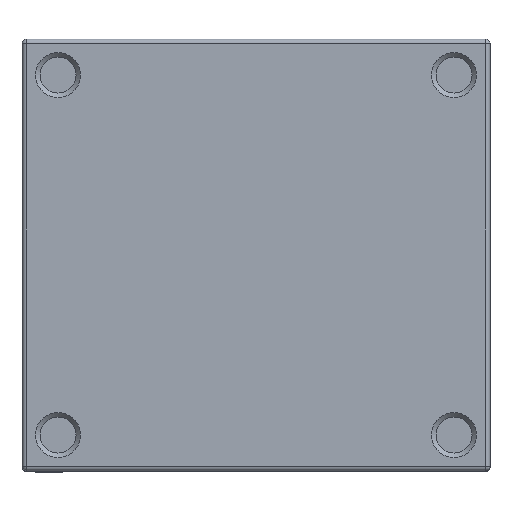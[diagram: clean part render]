
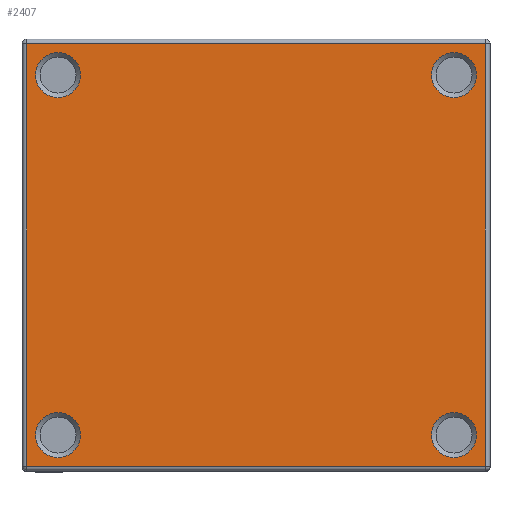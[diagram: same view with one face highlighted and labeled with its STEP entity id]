
A CAD part, top view. The second image highlights one B-rep face of the part: STEP entity #2407.
In plain terms, the highlighted planar face has unit normal (0, 0, 1).
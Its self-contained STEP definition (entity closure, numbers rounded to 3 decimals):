
#64=FACE_BOUND('',#507,.T.);
#65=FACE_BOUND('',#508,.T.);
#66=FACE_BOUND('',#509,.T.);
#67=FACE_BOUND('',#510,.T.);
#134=CIRCLE('',#2649,25.);
#135=CIRCLE('',#2650,25.);
#136=CIRCLE('',#2651,25.);
#137=CIRCLE('',#2652,25.);
#334=FACE_OUTER_BOUND('',#506,.T.);
#506=EDGE_LOOP('',(#1730,#1731,#1732,#1733));
#507=EDGE_LOOP('',(#1734));
#508=EDGE_LOOP('',(#1735));
#509=EDGE_LOOP('',(#1736));
#510=EDGE_LOOP('',(#1737));
#677=LINE('',#3836,#849);
#681=LINE('',#3849,#853);
#683=LINE('',#3852,#855);
#685=LINE('',#3855,#857);
#849=VECTOR('',#3059,10.);
#853=VECTOR('',#3075,10.);
#855=VECTOR('',#3079,10.);
#857=VECTOR('',#3083,10.);
#1015=VERTEX_POINT('',#3791);
#1019=VERTEX_POINT('',#3805);
#1025=VERTEX_POINT('',#3827);
#1028=VERTEX_POINT('',#3840);
#1062=VERTEX_POINT('',#3928);
#1063=VERTEX_POINT('',#3930);
#1064=VERTEX_POINT('',#3932);
#1065=VERTEX_POINT('',#3934);
#1256=EDGE_CURVE('',#1015,#1025,#677,.T.);
#1263=EDGE_CURVE('',#1025,#1028,#681,.T.);
#1265=EDGE_CURVE('',#1028,#1019,#683,.T.);
#1267=EDGE_CURVE('',#1019,#1015,#685,.T.);
#1302=EDGE_CURVE('',#1062,#1062,#134,.T.);
#1303=EDGE_CURVE('',#1063,#1063,#135,.T.);
#1304=EDGE_CURVE('',#1064,#1064,#136,.T.);
#1305=EDGE_CURVE('',#1065,#1065,#137,.T.);
#1730=ORIENTED_EDGE('',*,*,#1256,.F.);
#1731=ORIENTED_EDGE('',*,*,#1267,.F.);
#1732=ORIENTED_EDGE('',*,*,#1265,.F.);
#1733=ORIENTED_EDGE('',*,*,#1263,.F.);
#1734=ORIENTED_EDGE('',*,*,#1302,.T.);
#1735=ORIENTED_EDGE('',*,*,#1303,.T.);
#1736=ORIENTED_EDGE('',*,*,#1304,.T.);
#1737=ORIENTED_EDGE('',*,*,#1305,.T.);
#2160=PLANE('',#2648);
#2407=ADVANCED_FACE('',(#334,#64,#65,#66,#67),#2160,.T.);
#2648=AXIS2_PLACEMENT_3D('',#3927,#3148,#3149);
#2649=AXIS2_PLACEMENT_3D('',#3929,#3150,#3151);
#2650=AXIS2_PLACEMENT_3D('',#3931,#3152,#3153);
#2651=AXIS2_PLACEMENT_3D('',#3933,#3154,#3155);
#2652=AXIS2_PLACEMENT_3D('',#3935,#3156,#3157);
#3059=DIRECTION('',(0.,1.,0.));
#3075=DIRECTION('',(1.,0.,0.));
#3079=DIRECTION('',(0.,-1.,0.));
#3083=DIRECTION('',(-1.,0.,0.));
#3148=DIRECTION('center_axis',(0.,0.,1.));
#3149=DIRECTION('ref_axis',(1.,0.,0.));
#3150=DIRECTION('center_axis',(0.,0.,-1.));
#3151=DIRECTION('ref_axis',(1.,0.,0.));
#3152=DIRECTION('center_axis',(0.,0.,-1.));
#3153=DIRECTION('ref_axis',(1.,0.,0.));
#3154=DIRECTION('center_axis',(0.,0.,-1.));
#3155=DIRECTION('ref_axis',(1.,0.,0.));
#3156=DIRECTION('center_axis',(0.,0.,-1.));
#3157=DIRECTION('ref_axis',(1.,0.,0.));
#3791=CARTESIAN_POINT('',(-255.,-235.,350.));
#3805=CARTESIAN_POINT('',(255.,-235.,350.));
#3827=CARTESIAN_POINT('',(-255.,235.,350.));
#3836=CARTESIAN_POINT('',(-255.,120.,350.));
#3840=CARTESIAN_POINT('',(255.,235.,350.));
#3849=CARTESIAN_POINT('',(130.,235.,350.));
#3852=CARTESIAN_POINT('',(255.,-120.,350.));
#3855=CARTESIAN_POINT('',(-130.,-235.,350.));
#3927=CARTESIAN_POINT('Origin',(0.,0.,
350.));
#3928=CARTESIAN_POINT('',(195.,-200.,350.));
#3929=CARTESIAN_POINT('Origin',(220.,-200.,350.));
#3930=CARTESIAN_POINT('',(-245.,200.,350.));
#3931=CARTESIAN_POINT('Origin',(-220.,200.,350.));
#3932=CARTESIAN_POINT('',(195.,200.,350.));
#3933=CARTESIAN_POINT('Origin',(220.,200.,350.));
#3934=CARTESIAN_POINT('',(-245.,-200.,350.));
#3935=CARTESIAN_POINT('Origin',(-220.,-200.,350.));
